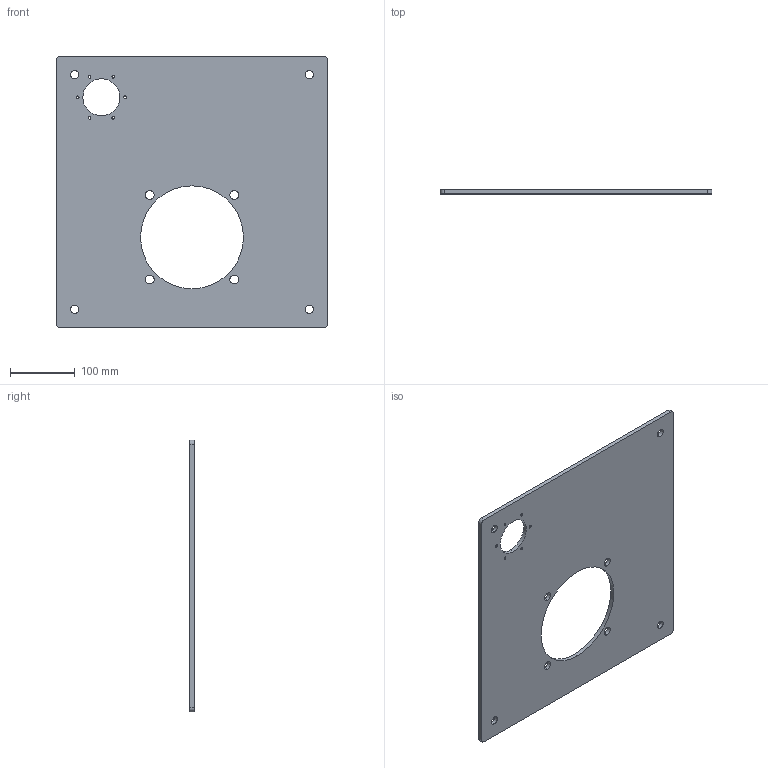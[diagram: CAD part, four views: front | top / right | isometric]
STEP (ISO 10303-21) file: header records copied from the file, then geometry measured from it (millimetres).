
FILE_DESCRIPTION (( 'STEP AP203' ), '1' );
FILE_NAME ('TVL-940-STEP.STEP', '2026-02-11T18:12:18', ( '' ), ( '' ), 'SwSTEP 2.0', 'SolidWorks 2025', '' );
FILE_SCHEMA (( 'CONFIG_CONTROL_DESIGN' ));
Length unit declared in the file: inch
Products named in the file (1): TVL-940-STEP
Bounding box: 419.1 x 6.35 x 419.1 mm (x, y, z)
Volume: 965827.5 mm3; surface area: 321651.6 mm2
Topology: 1 solids, 1 shells, 42 faces, 120 edges, 80 vertices
Faces by surface type: cylinder 36, plane 6
Entity records: 1559 total; most frequent: DIRECTION 278, CARTESIAN_POINT 243, ORIENTED_EDGE 240, EDGE_CURVE 120, AXIS2_PLACEMENT_3D 115, VERTEX_POINT 80, EDGE_LOOP 74, CIRCLE 72
